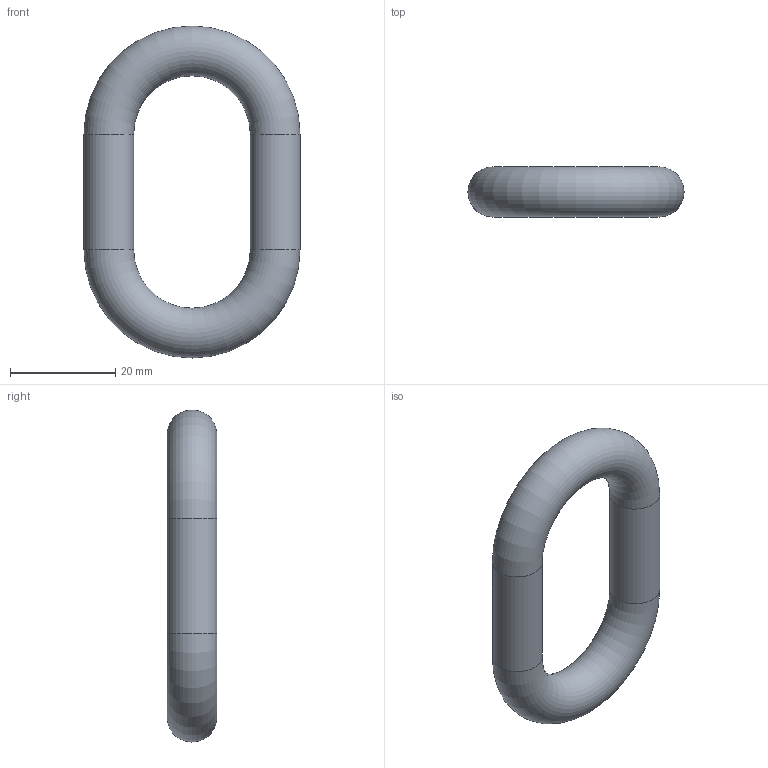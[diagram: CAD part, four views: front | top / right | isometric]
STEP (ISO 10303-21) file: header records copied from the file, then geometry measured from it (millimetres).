
FILE_DESCRIPTION(('Open CASCADE Model'),'2;1');
FILE_NAME('Open CASCADE Shape Model','2026-10-20T13:19:55',('Author'),( 'Open CASCADE'),'Open CASCADE STEP processor 7.9','Open CASCADE 7.9' ,'Unknown');
FILE_SCHEMA(('AUTOMOTIVE_DESIGN { 1 0 10303 214 1 1 1 1 }'));
Length unit declared in the file: millimetre
Products named in the file (1): Open CASCADE STEP translator 7.9 91
Bounding box: 40.97 x 9.45 x 62.97 mm (x, y, z)
Volume: 10031.3 mm3; surface area: 4246.1 mm2
Topology: 1 solids, 1 shells, 4 faces, 8 edges, 4 vertices
Faces by surface type: cylinder 2, torus 2
Full cylindrical faces by diameter (mm): 9.45 x2
Entity records: 216 total; most frequent: CARTESIAN_POINT 41, DIRECTION 32, ORIENTED_EDGE 16, PCURVE 16, DEFINITIONAL_REPRESENTATION 16, AXIS2_PLACEMENT_3D 11, LINE 10, VECTOR 10
